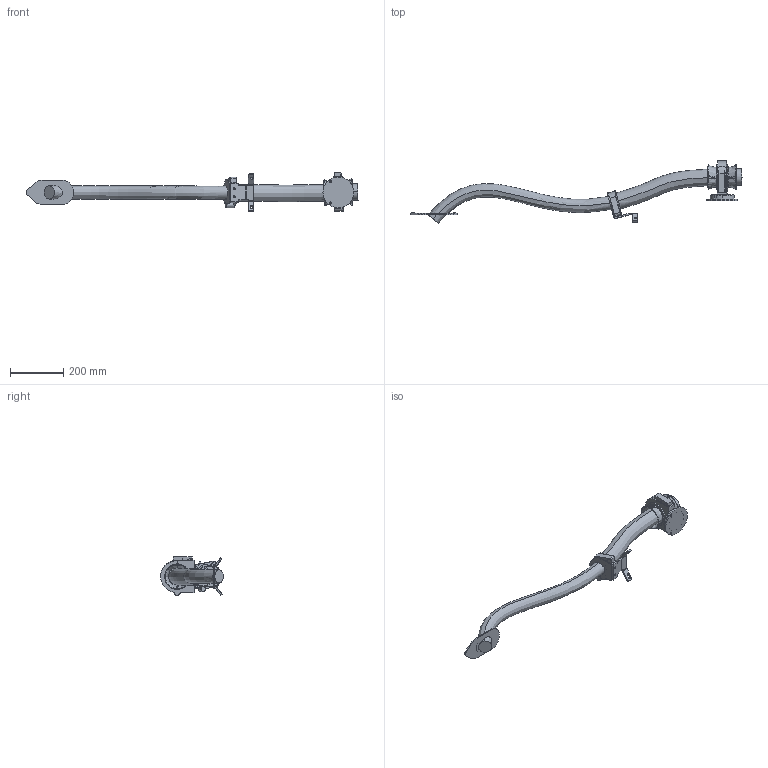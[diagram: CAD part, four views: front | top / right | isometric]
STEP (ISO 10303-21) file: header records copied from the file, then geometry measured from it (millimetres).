
FILE_DESCRIPTION (( 'STEP AP214' ), '1' );
FILE_NAME ('IRB5710-MH3_90kg-270_OmniCore_rev01_LINK04_CABLE.step', '2025-07-08T11:36:29', ( '' ), ( '' ), 'SwSTEP 2.0', 'SolidWorks 2024', '' );
FILE_SCHEMA (( 'AUTOMOTIVE_DESIGN' ));
Length unit declared in the file: millimetre
Products named in the file (1): IRB5710-MH3_90kg-270_OmniCore_rev01_LINK04_CABLE
Bounding box: 1243.15 x 234.79 x 144.31 mm (x, y, z)
Volume: 3757578.3 mm3; surface area: 405851.4 mm2
Topology: 1 solids, 8 shells, 742 faces, 1863 edges, 1087 vertices
Faces by surface type: cylinder 233, plane 215, torus 124, bspline 67, sphere 56, cone 47
Entity records: 36070 total; most frequent: CARTESIAN_POINT 10618, DIRECTION 3795, ORIENTED_EDGE 3582, EDGE_CURVE 1791, AXIS2_PLACEMENT_3D 1539, VERTEX_POINT 1079, CIRCLE 863, EDGE_LOOP 780
